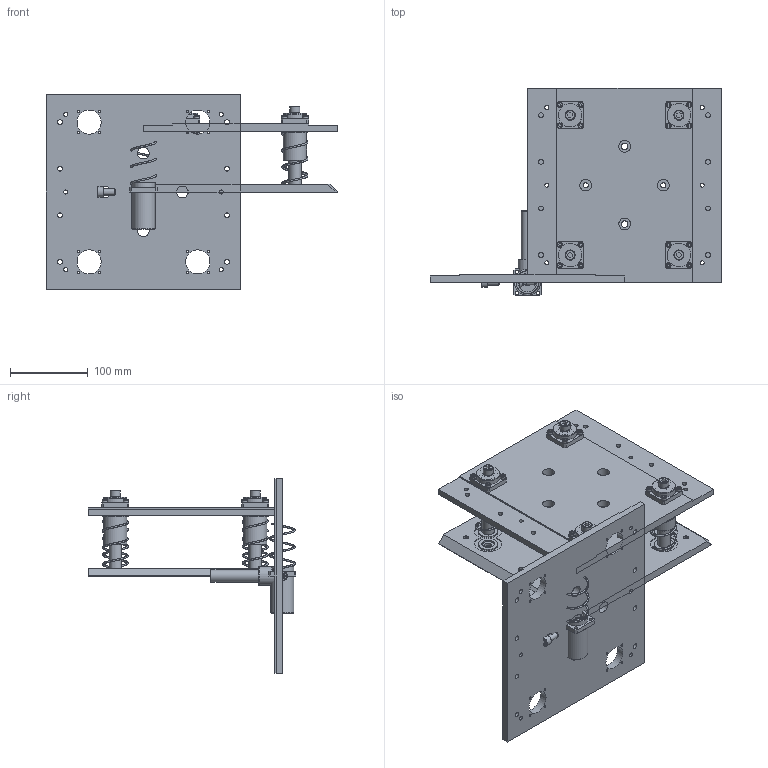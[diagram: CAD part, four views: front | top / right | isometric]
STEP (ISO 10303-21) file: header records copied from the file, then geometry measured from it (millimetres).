
FILE_DESCRIPTION( ( 'STEP AP214' ), '1' );
FILE_NAME( 'C:/Users/Segreteria/Desktop/CA.GPG.3.stp', '2014-07-17T07:52:14', ( ' ' ), ( ' ' ), 'XStep 1.0', ' ', ' ' );
FILE_SCHEMA( ( 'CONFIG_CONTROL_DESIGN) ( )' ) );
Length unit declared in the file: metre
Products named in the file (42): Assem1; GPG-2-2_Perno per GPG.2; GPG-2-1_Canotto per GPG.2; MAN.KH16PP; R.8.L; R.8.SCH; V-tcei M  8 x 16; V-tspei M  8 x 20; V-tcei M  4 x 16; M.33x120_68; GPG.3.5; GPG.3.4
Bounding box: 375 x 267.5 x 250 mm (x, y, z)
Volume: 2585003 mm3; surface area: 770899.1 mm2
Topology: 95 solids, 95 shells, 1429 faces, 3223 edges, 2141 vertices
Faces by surface type: plane 736, cylinder 427, cone 160, torus 101, bspline 5
Full cylindrical faces by diameter (mm): 3.242 x32, 4 x32, 4.5 x32, 5.2 x12, 6.2 x16, 6.6 x18, 6.647 x14, 7 x32, 7.2 x8, 8 x16, 8.3 x8, 8.376 x4, 8.5 x8, 8.9 x16, 11 x18, 13 x16, 15 x8, 16 x14, 16.1 x16, 24 x17, 29.5 x5, 30 x24, 31 x8, 33.5 x5
Entity records: 18960 total; most frequent: CARTESIAN_POINT 4189, DIRECTION 3038, ORIENTED_EDGE 2206, AXIS2_PLACEMENT_3D 1219, EDGE_LOOP 1206, EDGE_CURVE 1103, FACE_OUTER_BOUND 888, VERTEX_POINT 888
